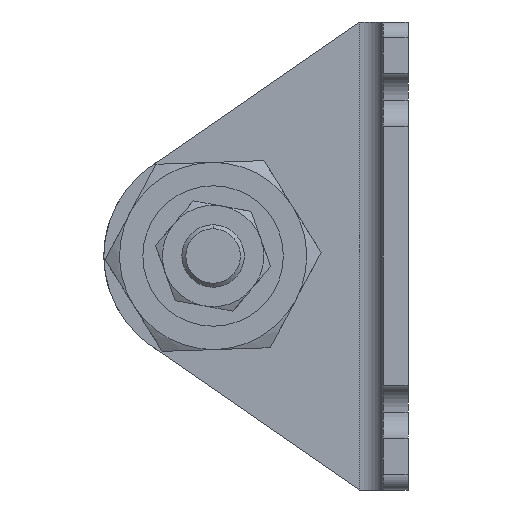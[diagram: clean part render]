
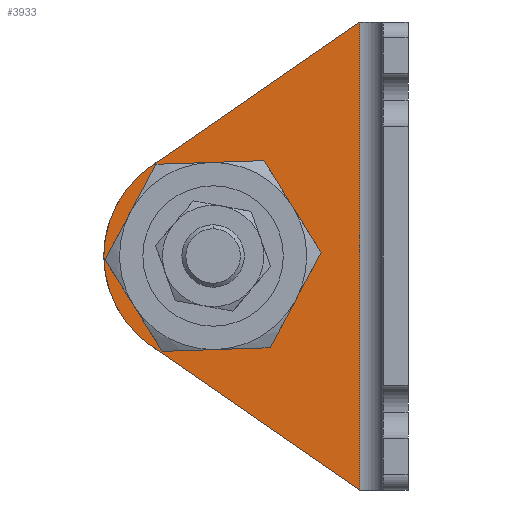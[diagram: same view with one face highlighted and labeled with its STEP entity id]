
A CAD part, left-side view. The second image highlights one B-rep face of the part: STEP entity #3933.
In plain terms, the highlighted planar face has unit normal (-1, 0, 0) as drawn and (1, 0, 0) by its records, which use the part's own axes.
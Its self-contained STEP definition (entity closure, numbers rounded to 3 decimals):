
#126 = DIRECTION ( 'NONE',  ( 0., 0.823, -0.568 ) ) ;
#136 = VECTOR ( 'NONE', #176, 1000. ) ;
#176 = DIRECTION ( 'NONE',  ( 0., 0., -1. ) ) ;
#188 = EDGE_CURVE ( 'NONE', #3849, #2729, #3329, .T. ) ;
#305 = ORIENTED_EDGE ( 'NONE', *, *, #3443, .F. ) ;
#338 = DIRECTION ( 'NONE',  ( 0., 1., 0. ) ) ;
#391 = DIRECTION ( 'NONE',  ( 1., 0., 0. ) ) ;
#466 = CARTESIAN_POINT ( 'NONE',  ( 3.2, 32.226, -17.976 ) ) ;
#512 = VERTEX_POINT ( 'NONE', #1215 ) ;
#584 = AXIS2_PLACEMENT_3D ( 'NONE', #2949, #1458, #879 ) ;
#655 = EDGE_CURVE ( 'NONE', #512, #3708, #2159, .T. ) ;
#665 = ORIENTED_EDGE ( 'NONE', *, *, #1244, .T. ) ;
#751 = CARTESIAN_POINT ( 'NONE',  ( 3.2, 6.2, 0. ) ) ;
#795 = CARTESIAN_POINT ( 'NONE',  ( 3.2, 6.2, -60. ) ) ;
#879 = DIRECTION ( 'NONE',  ( 0., 1., 0. ) ) ;
#959 = CARTESIAN_POINT ( 'NONE',  ( 3.2, 4.169, -61.403 ) ) ;
#1023 = VECTOR ( 'NONE', #126, 1000. ) ;
#1215 = CARTESIAN_POINT ( 'NONE',  ( 3.2, 39., -30. ) ) ;
#1244 = EDGE_CURVE ( 'NONE', #2729, #512, #3211, .T. ) ;
#1324 = ORIENTED_EDGE ( 'NONE', *, *, #1568, .F. ) ;
#1336 = ORIENTED_EDGE ( 'NONE', *, *, #2182, .F. ) ;
#1458 = DIRECTION ( 'NONE',  ( 1., 0., 0. ) ) ;
#1492 = EDGE_LOOP ( 'NONE', ( #3533, #665, #2454, #305, #2492 ) ) ;
#1538 = CARTESIAN_POINT ( 'NONE',  ( 3.2, 6.2, -60. ) ) ;
#1546 = CARTESIAN_POINT ( 'NONE',  ( 3.2, 3.2, -60. ) ) ;
#1568 = EDGE_CURVE ( 'NONE', #2152, #1611, #2864, .T. ) ;
#1611 = VERTEX_POINT ( 'NONE', #3609 ) ;
#1666 = CIRCLE ( 'NONE', #2319, 9.5 ) ;
#1779 = EDGE_LOOP ( 'NONE', ( #1324, #1336 ) ) ;
#1834 = DIRECTION ( 'NONE',  ( 1., 0., 0. ) ) ;
#1852 = FACE_OUTER_BOUND ( 'NONE', #1492, .T. ) ;
#1874 = DIRECTION ( 'NONE',  ( 0., 0.823, 0.568 ) ) ;
#1951 = CARTESIAN_POINT ( 'NONE',  ( 3.2, 25., -30. ) ) ;
#2024 = CARTESIAN_POINT ( 'NONE',  ( 3.2, 32.956, -18.481 ) ) ;
#2152 = VERTEX_POINT ( 'NONE', #2426 ) ;
#2159 = CIRCLE ( 'NONE', #2968, 14. ) ;
#2182 = EDGE_CURVE ( 'NONE', #1611, #2152, #1666, .T. ) ;
#2268 = AXIS2_PLACEMENT_3D ( 'NONE', #1546, #1834, #2750 ) ;
#2319 = AXIS2_PLACEMENT_3D ( 'NONE', #2753, #3710, #3402 ) ;
#2353 = VERTEX_POINT ( 'NONE', #751 ) ;
#2426 = CARTESIAN_POINT ( 'NONE',  ( 3.2, 34.5, -30. ) ) ;
#2454 = ORIENTED_EDGE ( 'NONE', *, *, #655, .T. ) ;
#2468 = CARTESIAN_POINT ( 'NONE',  ( 3.2, 25., -30. ) ) ;
#2491 = VECTOR ( 'NONE', #1874, 1000. ) ;
#2492 = ORIENTED_EDGE ( 'NONE', *, *, #2980, .T. ) ;
#2554 = DIRECTION ( 'NONE',  ( 1., 0., 0. ) ) ;
#2618 = AXIS2_PLACEMENT_3D ( 'NONE', #2468, #391, #338 ) ;
#2729 = VERTEX_POINT ( 'NONE', #3683 ) ;
#2750 = DIRECTION ( 'NONE',  ( 0., 1., 0. ) ) ;
#2753 = CARTESIAN_POINT ( 'NONE',  ( 3.2, 25., -30. ) ) ;
#2864 = CIRCLE ( 'NONE', #584, 9.5 ) ;
#2949 = CARTESIAN_POINT ( 'NONE',  ( 3.2, 25., -30. ) ) ;
#2968 = AXIS2_PLACEMENT_3D ( 'NONE', #1951, #2554, #3228 ) ;
#2980 = EDGE_CURVE ( 'NONE', #2353, #3849, #3448, .T. ) ;
#3211 = CIRCLE ( 'NONE', #2618, 14. ) ;
#3228 = DIRECTION ( 'NONE',  ( 0., 1., 0. ) ) ;
#3329 = LINE ( 'NONE', #959, #2491 ) ;
#3402 = DIRECTION ( 'NONE',  ( 0., 1., 0. ) ) ;
#3443 = EDGE_CURVE ( 'NONE', #2353, #3708, #3978, .T. ) ;
#3448 = LINE ( 'NONE', #795, #136 ) ;
#3484 = FACE_BOUND ( 'NONE', #1779, .T. ) ;
#3533 = ORIENTED_EDGE ( 'NONE', *, *, #188, .T. ) ;
#3609 = CARTESIAN_POINT ( 'NONE',  ( 3.2, 15.5, -30. ) ) ;
#3678 = PLANE ( 'NONE',  #2268 ) ;
#3683 = CARTESIAN_POINT ( 'NONE',  ( 3.2, 32.956, -41.519 ) ) ;
#3708 = VERTEX_POINT ( 'NONE', #2024 ) ;
#3710 = DIRECTION ( 'NONE',  ( 1., 0., 0. ) ) ;
#3849 = VERTEX_POINT ( 'NONE', #1538 ) ;
#3933 = ADVANCED_FACE ( 'NONE', ( #3484, #1852 ), #3678, .T. ) ;
#3978 = LINE ( 'NONE', #466, #1023 ) ;
